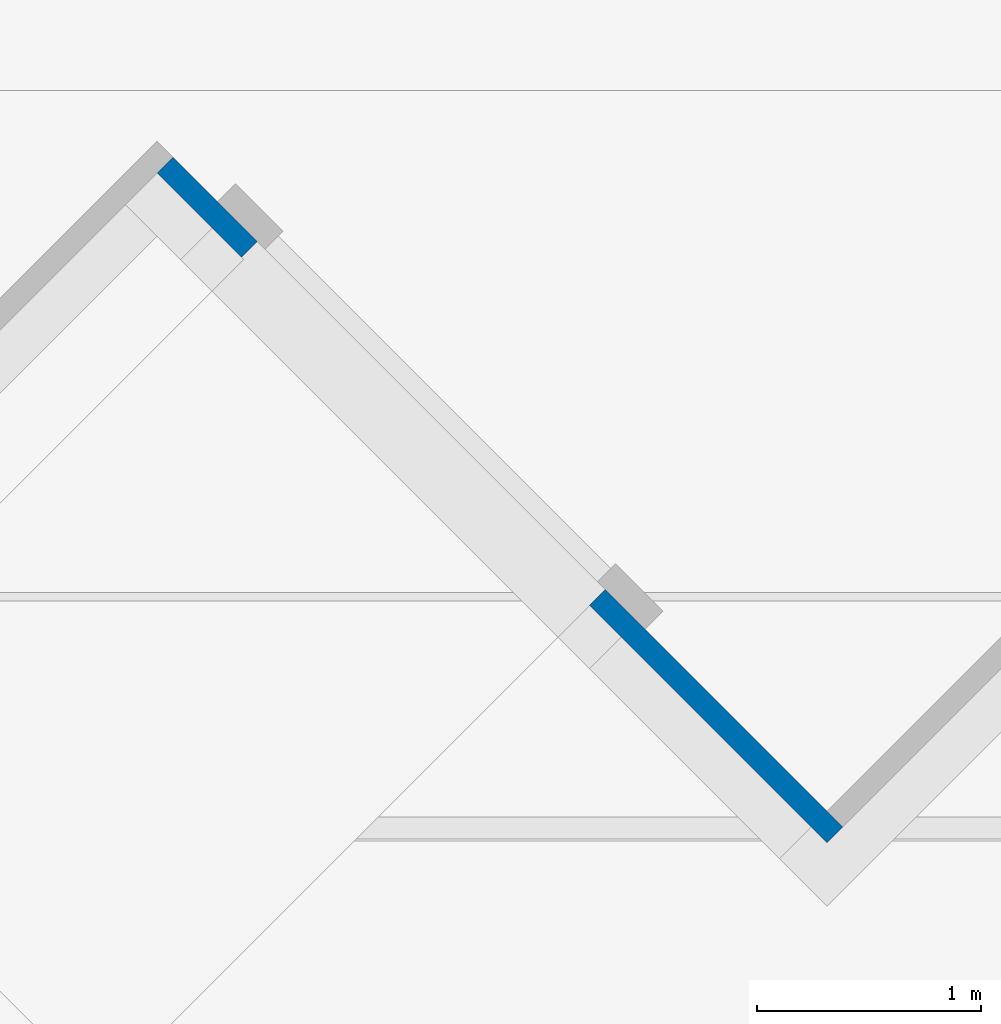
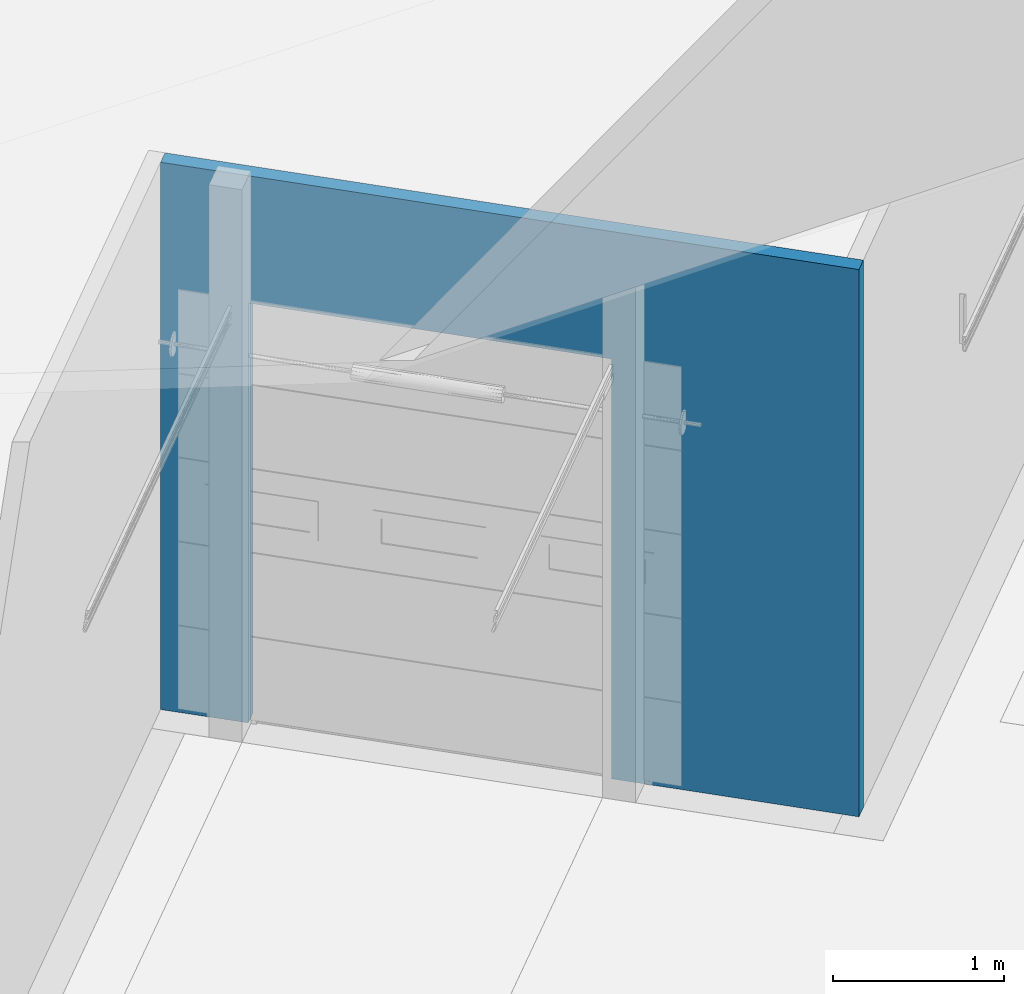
# One storey, part 50 of 64: 1 wall, 1 opening.
"""IFC2X3 building model written with IfcOpenShell, lengths in millimetres."""

from ifc_helpers import new_model, entity, si_unit, converted_unit, derived_unit, direction, frame, frame_2d, origin, place, context, subcontext, project, spatial, rectangle, extrude, material, layer, layer_set, layer_usage, type_object, element, save


model = new_model("IFC2X3")

# Units and contexts
model_context = context("Model", 3, precision=0.01, world=origin(), true_north=direction((4.05803320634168e-15, -1.0)))
body_context = subcontext(model_context, "Body", "Model", "MODEL_VIEW")
ifc_project = project(units=[si_unit("LENGTHUNIT", "METRE", prefix="MILLI"), si_unit("AREAUNIT", "SQUARE_METRE"), si_unit("VOLUMEUNIT", "CUBIC_METRE"), converted_unit("PLANEANGLEUNIT", "DEGREE", entity("IfcRatioMeasure", 0.0174532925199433), si_unit("PLANEANGLEUNIT", "RADIAN"), dimensions=[0, 0, 0, 0, 0, 0, 0]), si_unit("MASSUNIT", "GRAM", prefix="KILO"), derived_unit("MASSDENSITYUNIT", [(si_unit("MASSUNIT", "GRAM", prefix="KILO"), 1), (si_unit("LENGTHUNIT", "METRE"), -3)]), si_unit("TIMEUNIT", "SECOND"), si_unit("FREQUENCYUNIT", "HERTZ"), si_unit("THERMODYNAMICTEMPERATUREUNIT", "DEGREE_CELSIUS"), derived_unit("THERMALTRANSMITTANCEUNIT", [(si_unit("MASSUNIT", "GRAM", prefix="KILO"), 1), (si_unit("THERMODYNAMICTEMPERATUREUNIT", "KELVIN"), -1), (si_unit("TIMEUNIT", "SECOND"), -3)]), derived_unit("VOLUMETRICFLOWRATEUNIT", [(si_unit("LENGTHUNIT", "METRE"), 3), (si_unit("TIMEUNIT", "SECOND"), -1)]), si_unit("ELECTRICCURRENTUNIT", "AMPERE"), si_unit("ELECTRICVOLTAGEUNIT", "VOLT"), si_unit("POWERUNIT", "WATT"), si_unit("FORCEUNIT", "NEWTON", prefix="KILO"), si_unit("ILLUMINANCEUNIT", "LUX"), si_unit("LUMINOUSFLUXUNIT", "LUMEN"), si_unit("LUMINOUSINTENSITYUNIT", "CANDELA"), derived_unit("USERDEFINED", [(si_unit("MASSUNIT", "GRAM", prefix="KILO"), -1), (si_unit("LENGTHUNIT", "METRE"), -2), (si_unit("TIMEUNIT", "SECOND"), 3), (si_unit("LUMINOUSFLUXUNIT", "LUMEN"), 1)]), derived_unit("LINEARVELOCITYUNIT", [(si_unit("LENGTHUNIT", "METRE"), 1), (si_unit("TIMEUNIT", "SECOND"), -1)]), si_unit("PRESSUREUNIT", "PASCAL"), derived_unit("USERDEFINED", [(si_unit("LENGTHUNIT", "METRE"), -2), (si_unit("MASSUNIT", "GRAM", prefix="KILO"), 1), (si_unit("TIMEUNIT", "SECOND"), -2)])], contexts=[model_context])

# Site, building, storey
site_placement = place(None, frame((927466.849349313, 583801.882853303, 0.0), z_axis=(0.0, 0.0, 1.0), x_axis=(-1.0, 0.0, 0.0)))
site = spatial("IfcSite", under=ifc_project, at=site_placement, Name="Surface", CompositionType="ELEMENT")
building_placement = place(site_placement, origin())
building = spatial("IfcBuilding", under=site, at=building_placement, CompositionType="ELEMENT")
storey_placement = place(building_placement, frame((0.0, 0.0, 44170.0)))
storey = spatial("IfcBuildingStorey", under=building, at=storey_placement, Name="Ground FFL", CompositionType="ELEMENT", Elevation=44170.0)

# Wall, opening
ifc_material = material(Name="Isopenal")
ifc_layer = layer(ifc_material, 100.0)
ifc_layer_set = layer_set([ifc_layer], Name="Basic Wall:Isopanel")
ifc_layer_usage = layer_usage(ifc_layer_set, "AXIS2", "POSITIVE", -50.0)
wall_type = type_object("IfcWallType", Name="Basic Wall:Isopanel", PredefinedType="STANDARD", material=ifc_layer_set)
wall_placement = place(storey_placement, frame((-128967.07007798, -30575.5946140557, 0.0), z_axis=(0.0, 0.0, 1.0), x_axis=(0.707106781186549, -0.707106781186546, 0.0)))
wall = element("IfcWallStandardCase", 1, at=wall_placement, inside=storey, type_object=wall_type, material=ifc_layer_usage, Name="Basic Wall:Isopanel", ObjectType="Basic Wall:Isopanel", context=body_context, shape_type="SweptSolid", body=[
    extrude(rectangle(XDim=4232.26267936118, YDim=99.9999999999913, at=frame_2d((2116.13133968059, -8.10018718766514e-13), x_axis=(-1.0, 0.0))), origin(), (0.0, 0.0, 1.0), 3910.35154955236),
])
opening_placement = place(wall_placement, frame((1500.21531181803, -50.0, 0.0)))
element("IfcOpeningElement", 2, at=opening_placement, cuts=wall, Name="6m_Roller Shutter Doors:3000(w) x 3000(h):1", ObjectType="Opening", context=body_context, shape_type="SweptSolid", body=[
    extrude(rectangle(XDim=3000.0, YDim=2200.0, at=frame_2d((1500.0, 1100.0), x_axis=(1.0, 0.0))), frame((0.0, 0.0, 0.0), z_axis=(0.0, 1.0, 0.0), x_axis=(0.0, 0.0, 1.0)), (0.0, 0.0, 1.0), 100.0),
])

save(model, "model.ifc")
